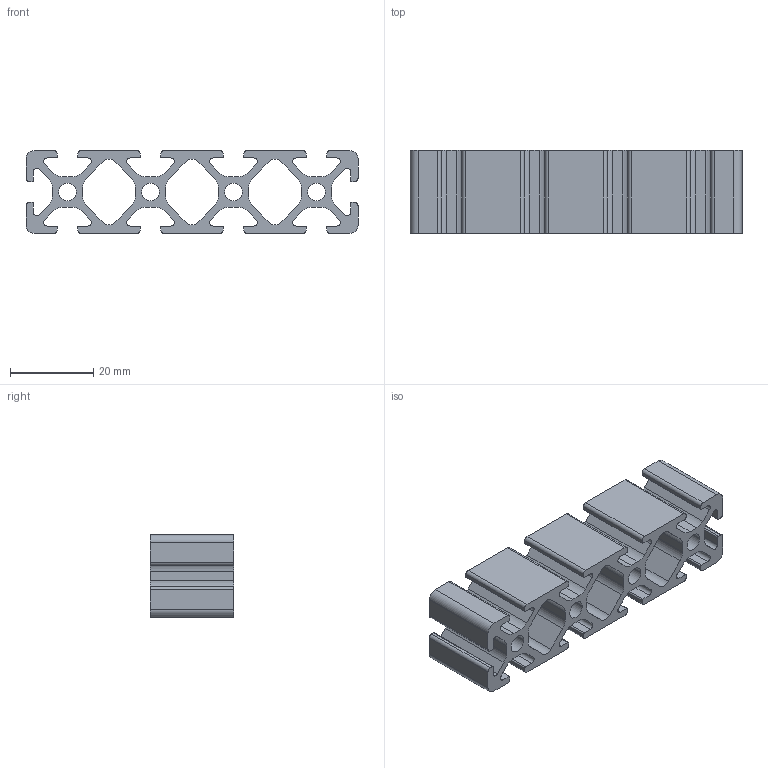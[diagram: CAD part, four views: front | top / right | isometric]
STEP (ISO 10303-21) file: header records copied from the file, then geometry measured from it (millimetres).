
FILE_DESCRIPTION(('STEP AP214'),'1');
FILE_NAME('cctmp_D43487DF-D809-4534-A7D3-E25C97815B6E_2023_04_25_09_55_41_0364_4564..stp','2023-04-25T07:55:41',('item Industrietechnik GmbH'),('CADClick - www.CADClick.com'),'Spatial InterOp 3D',' ','unknown authorization');
FILE_SCHEMA(('AUTOMOTIVE_DESIGN'));
Length unit declared in the file: millimetre
Products named in the file (2): item_0037086_Profile 5 80x20_L=20; item_0037086_Profile 5 80x20_L=20_1
Assembly tree (1 placements, depth 2):
  item_0037086_Profile 5 80x20_L=20
    item_0037086_Profile 5 80x20_L=20_1
Bounding box: 80 x 20 x 20 mm (x, y, z)
Volume: 12547.9 mm3; surface area: 12810.6 mm2
Topology: 1 solids, 1 shells, 214 faces, 636 edges, 424 vertices
Faces by surface type: cylinder 110, plane 104
Entity records: 9031 total; most frequent: DIRECTION 1288, CARTESIAN_POINT 1276, ORIENTED_EDGE 1272, EDGE_CURVE 636, AXIS2_PLACEMENT_3D 436, VERTEX_POINT 424, LINE 416, VECTOR 416
